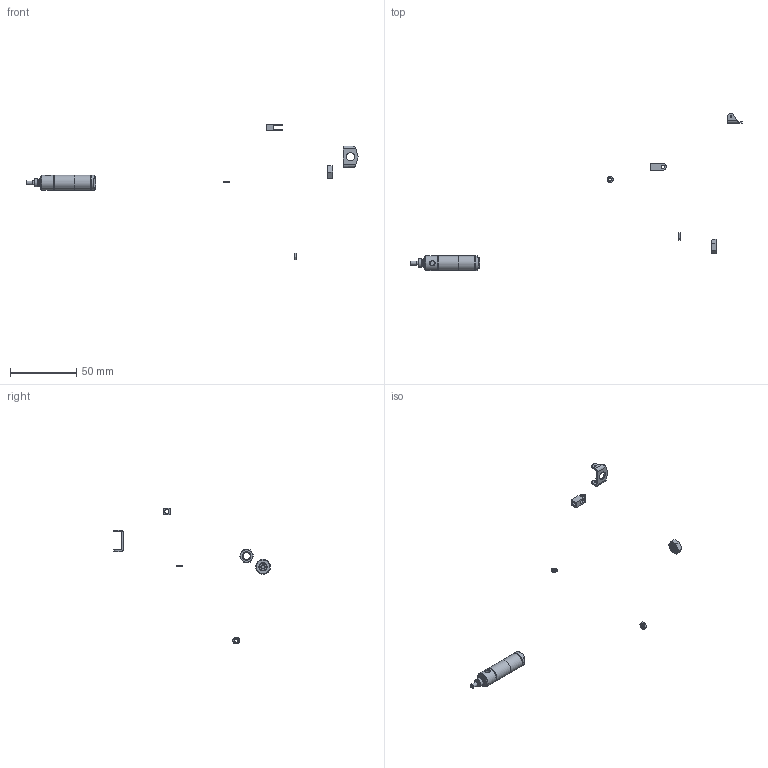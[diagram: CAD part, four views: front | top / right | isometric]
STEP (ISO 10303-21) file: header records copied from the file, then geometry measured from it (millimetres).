
FILE_DESCRIPTION(/* description */ (''),/* implementation_level */ '2;1');
FILE_NAME(/* name */ 'C:\Users\Nick\Desktop\CY-101-SA\3D\CY-101 SA.step',/* time_stamp */ '2016-01-19T10:21:21-05:00',/* author */ ('Nick'),/* organization */ (''),/* preprocessor_version */ 'ST-DEVELOPER v16.1',/* originating_system */ 'AutoCAD Mechanical',/* authorisation */ '');
FILE_SCHEMA (('AUTOMOTIVE_DESIGN { 1 0 10303 214 3 1 1 }'));
Length unit declared in the file: inch
Products named in the file (2): 94805A231; Product
Assembly tree (1 placements, depth 2):
  Product
    94805A231
Bounding box: 250.7 x 118.53 x 102.53 mm (x, y, z)
Volume: 3529.9 mm3; surface area: 5275.4 mm2
Topology: 7 solids, 7 shells, 147 faces, 347 edges, 226 vertices
Faces by surface type: plane 69, cone 41, cylinder 33, bspline 4
Full cylindrical faces by diameter (mm): 1.25 x2, 2.5 x2, 2.58 x1, 3.125 x1, 3.13 x4, 4.63 x1, 5.589 x1, 6.24 x1, 6.25 x2, 10.625 x2, 11.18 x1, 11.25 x2
Entity records: 6018 total; most frequent: CARTESIAN_POINT 2841, DIRECTION 636, ORIENTED_EDGE 628, EDGE_CURVE 314, AXIS2_PLACEMENT_3D 269, VERTEX_POINT 218, EDGE_LOOP 202, FACE_OUTER_BOUND 147
